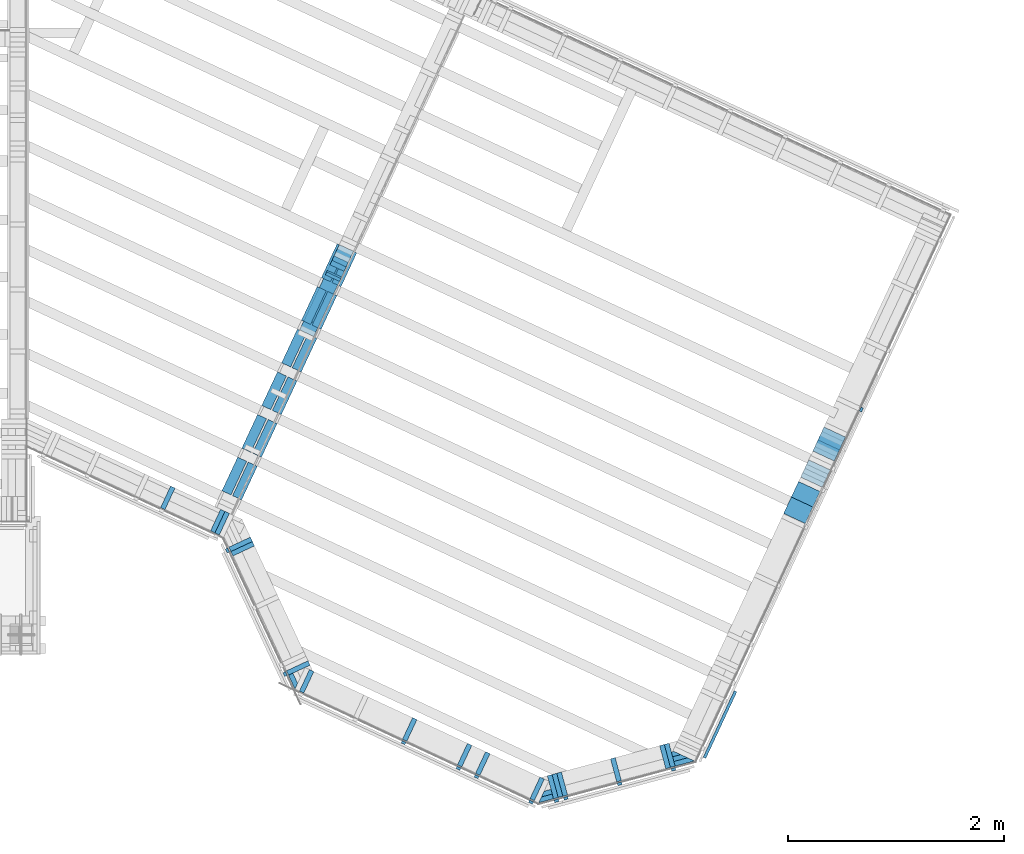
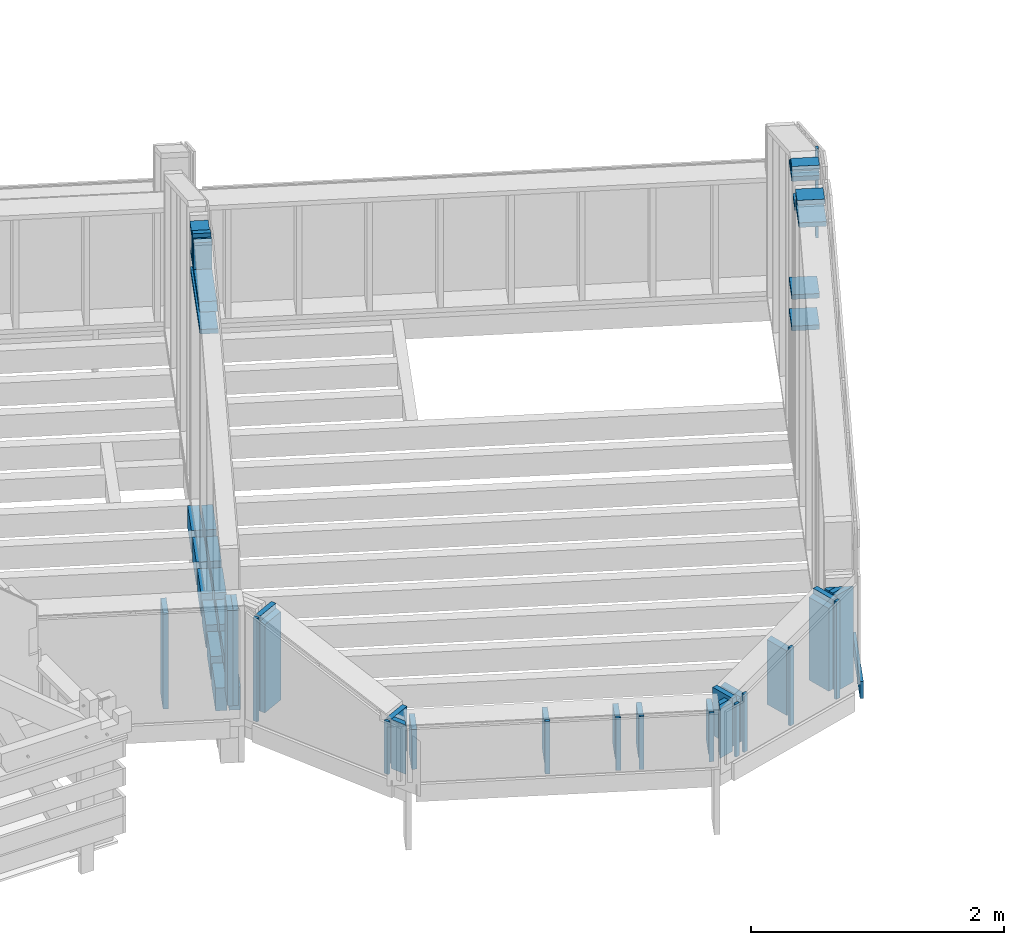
# One storey, part 17 of 24: 60 members.
"""IFC2X3 building model written with IfcOpenShell, lengths in metres."""

from ifc_helpers import new_model, si_unit, direction, frame, origin_with_axes, place, context, subcontext, project, spatial, faceted_brep, material, element, save


model = new_model("IFC2X3")

# Units and contexts
model_context = context("Model", 3, precision=1e-06, world=origin_with_axes(), true_north=direction((0.0, 1.0, 0.0)))
body_context = subcontext(model_context, "Body", "Model", "MODEL_VIEW")
ifc_project = project(units=[si_unit("LENGTHUNIT", "METRE"), si_unit("AREAUNIT", "SQUARE_METRE"), si_unit("VOLUMEUNIT", "CUBIC_METRE"), si_unit("PLANEANGLEUNIT", "RADIAN")], contexts=[model_context])

# Site, building, storey
site_placement = place(None, origin_with_axes())
site = spatial("IfcSite", under=ifc_project, at=site_placement, CompositionType="ELEMENT")
building_placement = place(site_placement, origin_with_axes())
building = spatial("IfcBuilding", under=site, at=building_placement, Name="Building 1", CompositionType="ELEMENT")
storey_placement = place(building_placement, origin_with_axes())
storey = spatial("IfcBuildingStorey", under=building, at=storey_placement, Name="Premier Etage", CompositionType="ELEMENT", Elevation=0.0)

# Members
ifc_material_1 = material(Name="Epicéa C24")
member_1_placement = place(storey_placement, frame((9.6650712, 3.6329024, 5.0835), z_axis=(0.9063078, -0.4226183, 0.0), x_axis=(-0.4226183, -0.9063078, 0.0)))
element("IfcMember", 1, at=member_1_placement, inside=storey, material=ifc_material_1, Name="Montant", context=body_context, shape_type="Brep", body=[
    faceted_brep([(0.0, 0.0225, -0.0725), (0.0, -0.0225, -0.0725), (0.0, -0.0225, 0.0725), (0.0, 0.0225, 0.0725), (0.87, 0.0225, -0.0725), (0.87, -0.0225, -0.0725), (0.87, 0.0225, 0.0725), (0.87, -0.0225, 0.0725)], [[[0, 1, 2, 3]], [[1, 0, 4, 5]], [[0, 3, 6, 4]], [[5, 4, 6, 7]], [[2, 1, 5, 7]], [[3, 2, 7, 6]]]),
])
member_2_placement = place(storey_placement, frame((9.6069612, 3.5082851, 5.4693053), z_axis=(0.9063078, -0.4226183, 0.0), x_axis=(0.0, 0.0, -1.0)))
element("IfcMember", 2, at=member_2_placement, inside=storey, material=ifc_material_1, Name="Montant", context=body_context, shape_type="Brep", body=[
    faceted_brep([(0.0, -0.0225, -0.0725), (0.0, -0.0225, 0.0725), (0.0, 0.0225, 0.0725), (0.0, 0.0225, -0.0725), (0.1783053, -0.0225, 0.0725), (0.1783053, 0.0225, 0.0725), (0.1783053, -0.0225, -0.0725), (0.1783053, 0.0225, -0.0725)], [[[0, 1, 2, 3]], [[2, 1, 4, 5]], [[1, 0, 6, 4]], [[6, 7, 5, 4]], [[0, 3, 7, 6]], [[3, 2, 5, 7]]]),
])
member_3_placement = place(storey_placement, frame((11.5062944, -1.4585268, 3.3236496), z_axis=(-0.9659258, -0.258819, 0.0), x_axis=(0.0, 0.0, -1.0)))
element("IfcMember", 3, at=member_3_placement, inside=storey, material=ifc_material_1, Name="Montant", context=body_context, shape_type="Brep", body=[
    faceted_brep([(0.0, -0.0225, 0.0329472), (0.0, 0.0225, 0.0707066), (0.0, 0.0225, -0.0707066), (0.0, -0.0225, -0.0707066), (0.4736496, 0.0225, 0.0707066), (0.4736496, 0.0225, -0.0707066), (0.4736496, -0.0225, 0.0329472), (0.4736496, -0.0225, -0.0707066)], [[[0, 1, 2, 3]], [[2, 1, 4, 5]], [[1, 0, 6, 4]], [[0, 3, 7, 6]], [[4, 6, 7, 5]], [[3, 2, 5, 7]]]),
])
ifc_material_2 = material(Name="NH II")
member_4_placement = place(storey_placement, frame((9.6204409, 3.6507703, 2.695), z_axis=(0.0, 0.0, -1.0), x_axis=(-0.4226183, -0.9063078, 0.0)))
element("IfcMember", 4, at=member_4_placement, inside=storey, material=ifc_material_2, Name="Solive", context=body_context, shape_type="Brep", body=[
    faceted_brep([(0.0, -0.046, -0.11), (0.0, 0.046, -0.11), (0.3432285, 0.046, -0.11), (0.3432285, -0.046, -0.11), (0.0, 0.046, 0.11), (0.3432285, 0.046, 0.11), (0.0, -0.046, 0.11), (0.3432285, -0.046, 0.11)], [[[0, 1, 2, 3]], [[1, 4, 5, 2]], [[4, 6, 7, 5]], [[6, 0, 3, 7]], [[0, 6, 4, 1]], [[7, 3, 2, 5]]]),
])
member_5_placement = place(storey_placement, frame((14.0783333, 1.7079215, 4.1328223), z_axis=(-0.9063078, 0.4226183, 0.0), x_axis=(0.4226183, 0.9063078, 0.0)))
element("IfcMember", 5, at=member_5_placement, inside=storey, material=ifc_material_1, Name="Montant", context=body_context, shape_type="Brep", body=[
    faceted_brep([(0.0, 0.0225, -0.11), (0.0, -0.0225, -0.11), (0.0, -0.0225, 0.11), (0.0, 0.0225, 0.11), (0.2448861, -0.0225, -0.11), (0.2448861, -0.0225, 0.11), (0.2448861, 0.0225, -0.11), (0.2448861, 0.0225, 0.11)], [[[0, 1, 2, 3]], [[2, 1, 4, 5]], [[1, 0, 6, 4]], [[5, 4, 6, 7]], [[0, 3, 7, 6]], [[3, 2, 5, 7]]]),
])
member_6_placement = place(storey_placement, frame((14.0783333, 1.7079215, 5.6718053), z_axis=(-0.9063078, 0.4226183, 0.0), x_axis=(0.4226183, 0.9063078, 0.0)))
element("IfcMember", 6, at=member_6_placement, inside=storey, material=ifc_material_1, Name="Montant", context=body_context, shape_type="Brep", body=[
    faceted_brep([(0.0, 0.0225, -0.11), (0.0, -0.0225, -0.11), (0.0, -0.0225, 0.11), (0.0, 0.0225, 0.11), (0.1133205, -0.0225, -0.11), (0.1133205, -0.0225, 0.11), (0.1133205, 0.0225, -0.11), (0.1133205, 0.0225, 0.11)], [[[0, 1, 2, 3]], [[2, 1, 4, 5]], [[1, 0, 6, 4]], [[5, 4, 6, 7]], [[0, 3, 7, 6]], [[3, 2, 5, 7]]]),
])
member_7_placement = place(storey_placement, frame((9.684089, 3.6736863, 5.4918053), z_axis=(0.9063078, -0.4226183, 0.0), x_axis=(-0.4226183, -0.9063078, 0.0)))
element("IfcMember", 7, at=member_7_placement, inside=storey, material=ifc_material_1, Name="Montant", context=body_context, shape_type="Brep", body=[
    faceted_brep([(0.205, -0.0225, -0.0725), (0.205, 0.0225, -0.0725), (0.205, 0.0225, 0.0725), (0.205, -0.0225, 0.0725), (0.0, 0.0225, -0.0725), (0.0, 0.0225, 0.0725), (0.0, -0.0225, -0.0725), (0.0, -0.0225, 0.0725)], [[[0, 1, 2, 3]], [[2, 1, 4, 5]], [[1, 0, 6, 4]], [[4, 6, 7, 5]], [[0, 3, 7, 6]], [[3, 2, 5, 7]]]),
])
for number, where, z_axis, x_axis in (
    (8, (9.0686344, 2.4674174, 2.695), (0.0, 0.0, -1.0), (-0.4226183, -0.9063078, 0.0)),
    (9, (8.7986446, 1.6328727, 2.695), (0.0, 0.0, -1.0), (-0.4226183, -0.9063078, 0.0)),
):
    element("IfcMember", number, at=place(storey_placement, frame(where, z_axis=z_axis, x_axis=x_axis)), inside=storey, material=ifc_material_2, Name="Solive", context=body_context, shape_type="Brep", body=[
        faceted_brep([(0.0, -0.046, -0.11), (0.0, 0.046, -0.11), (0.3432285, 0.046, -0.11), (0.3432285, -0.046, -0.11), (0.0, 0.046, 0.11), (0.3432285, 0.046, 0.11), (0.0, -0.046, 0.11), (0.3432285, -0.046, 0.11)], [[[0, 1, 2, 3]], [[1, 4, 5, 2]], [[4, 6, 7, 5]], [[6, 0, 3, 7]], [[0, 6, 4, 1]], [[7, 3, 2, 5]]]),
    ])
member_8_placement = place(storey_placement, frame((8.7053775, 0.8507214, 3.7624104), z_axis=(-0.9063078, -0.4226183, 0.0), x_axis=(0.0, 0.0, -1.0)))
element("IfcMember", 10, at=member_8_placement, inside=storey, material=ifc_material_1, Name="Montant", context=body_context, shape_type="Brep", body=[
    faceted_brep([(0.0167001, 0.0225, -0.11), (0.0, -0.0225, -0.11), (0.0, -0.0225, 0.11), (0.0167001, 0.0225, 0.11), (0.8674104, -0.0225, -0.11), (0.8674104, -0.0225, 0.11), (0.8674104, 0.0225, -0.11), (0.8674104, 0.0225, 0.11)], [[[0, 1, 2, 3]], [[2, 1, 4, 5]], [[1, 0, 6, 4]], [[0, 3, 7, 6]], [[3, 2, 5, 7]], [[4, 6, 7, 5]]]),
])
member_9_placement = place(storey_placement, frame((8.7007634, 1.6785154, 2.695), z_axis=(0.0, 0.0, -1.0), x_axis=(-0.4226183, -0.9063078, 0.0)))
element("IfcMember", 11, at=member_9_placement, inside=storey, material=ifc_material_2, Name="Solive", context=body_context, shape_type="Brep", body=[
    faceted_brep([(0.0, -0.046, -0.11), (0.0, 0.046, -0.11), (0.3432285, 0.046, -0.11), (0.3432285, -0.046, -0.11), (0.0, 0.046, 0.11), (0.3432285, 0.046, 0.11), (0.0, -0.046, 0.11), (0.3432285, -0.046, 0.11)], [[[0, 1, 2, 3]], [[1, 4, 5, 2]], [[4, 6, 7, 5]], [[6, 0, 3, 7]], [[0, 6, 4, 1]], [[7, 3, 2, 5]]]),
])
member_10_placement = place(storey_placement, frame((9.5879433, 3.4675013, 5.565), z_axis=(0.9063078, -0.4226183, 0.0), x_axis=(0.0, 0.0, -1.0)))
element("IfcMember", 12, at=member_10_placement, inside=storey, material=ifc_material_1, Name="Montant", context=body_context, shape_type="Brep", body=[
    faceted_brep([(0.274, -0.0225, 0.0725), (0.274, -0.0225, -0.0725), (0.274, 0.0225, -0.0725), (0.274, 0.0225, 0.0725), (0.0, -0.0225, -0.0725), (0.0, 0.0225, -0.0725), (0.0, -0.0225, 0.0725), (0.0, 0.0225, 0.0725)], [[[0, 1, 2, 3]], [[2, 1, 4, 5]], [[1, 0, 6, 4]], [[3, 2, 5, 7]], [[0, 3, 7, 6]], [[6, 7, 5, 4]]]),
])
member_11_placement = place(storey_placement, frame((14.0783333, 1.7079215, 5.5730704), z_axis=(-0.9063078, 0.4226183, 0.0), x_axis=(0.4226183, 0.9063078, 0.0)))
element("IfcMember", 13, at=member_11_placement, inside=storey, material=ifc_material_1, Name="Montant", context=body_context, shape_type="Brep", body=[
    faceted_brep([(0.2418861, -0.0225, 0.11), (0.2418861, -0.0225, -0.11), (0.2418861, 0.0225, -0.11), (0.2418861, 0.0225, 0.11), (0.0, -0.0225, -0.11), (0.0, 0.0225, -0.11), (0.0, -0.0225, 0.11), (0.0, 0.0225, 0.11)], [[[0, 1, 2, 3]], [[2, 1, 4, 5]], [[1, 0, 6, 4]], [[5, 4, 6, 7]], [[3, 2, 5, 7]], [[0, 3, 7, 6]]]),
])
member_12_placement = place(storey_placement, frame((9.6650712, 3.6329024, 5.2685), z_axis=(0.9063078, -0.4226183, 0.0), x_axis=(-0.4226183, -0.9063078, 0.0)))
element("IfcMember", 14, at=member_12_placement, inside=storey, material=ifc_material_1, Name="Montant", context=body_context, shape_type="Brep", body=[
    faceted_brep([(0.7532609, -0.0225, -0.0725), (0.8312032, 0.0225, -0.0725), (0.8312032, 0.0225, 0.0725), (0.7532609, -0.0225, 0.0725), (0.0, 0.0225, -0.0725), (0.0, 0.0225, 0.0725), (0.0, -0.0225, -0.0725), (0.0, -0.0225, 0.0725)], [[[0, 1, 2, 3]], [[2, 1, 4, 5]], [[1, 0, 6, 4]], [[4, 6, 7, 5]], [[0, 3, 7, 6]], [[3, 2, 5, 7]]]),
])
member_13_placement = place(storey_placement, frame((13.8090285, 1.1303954, 5.5730704), z_axis=(-0.9063078, 0.4226183, 0.0), x_axis=(0.4226183, 0.9063078, 0.0)))
element("IfcMember", 15, at=member_13_placement, inside=storey, material=ifc_material_1, Name="Montant", context=body_context, shape_type="Brep", body=[
    faceted_brep([(0.0, 0.0225, -0.11), (0.0, -0.0225, -0.11), (0.0, -0.0225, 0.11), (0.0, 0.0225, 0.11), (0.3262296, -0.0225, -0.11), (0.3262296, -0.0225, 0.11), (0.3262296, 0.0225, -0.11), (0.3262296, 0.0225, 0.11)], [[[0, 1, 2, 3]], [[2, 1, 4, 5]], [[1, 0, 6, 4]], [[5, 4, 6, 7]], [[0, 3, 7, 6]], [[3, 2, 5, 7]]]),
])
member_14_placement = place(storey_placement, frame((9.3504512, 2.8162256, 2.695), z_axis=(0.0, 0.0, -1.0), x_axis=(-0.4226183, -0.9063078, 0.0)))
element("IfcMember", 16, at=member_14_placement, inside=storey, material=ifc_material_2, Name="Solive", context=body_context, shape_type="Brep", body=[
    faceted_brep([(0.0, -0.046, -0.11), (0.0, 0.046, -0.11), (0.3432285, 0.046, -0.11), (0.3432285, -0.046, -0.11), (0.0, 0.046, 0.11), (0.3432285, 0.046, 0.11), (0.0, -0.046, 0.11), (0.3432285, -0.046, 0.11)], [[[0, 1, 2, 3]], [[1, 4, 5, 2]], [[4, 6, 7, 5]], [[6, 0, 3, 7]], [[0, 6, 4, 1]], [[7, 3, 2, 5]]]),
])
member_15_placement = place(storey_placement, frame((8.475034, 1.1060486, 3.8136408), z_axis=(-0.4226183, -0.9063078, 0.0), x_axis=(0.0, 0.0, -1.0)))
element("IfcMember", 17, at=member_15_placement, inside=storey, material=ifc_material_1, Name="Montant", context=body_context, shape_type="Brep", body=[
    faceted_brep([(0.9186408, -0.0225, -0.11), (0.9186408, 0.0225, -0.11), (0.9186408, 0.0225, 0.11), (0.9186408, -0.0225, 0.11), (0.0, 0.0225, -0.11), (0.0, 0.0225, 0.11), (0.0, -0.0225, -0.11), (0.0, -0.0225, 0.11)], [[[0, 1, 2, 3]], [[2, 1, 4, 5]], [[1, 0, 6, 4]], [[0, 3, 7, 6]], [[3, 2, 5, 7]], [[7, 5, 4, 6]]]),
])
member_16_placement = place(storey_placement, frame((11.4291327, -1.3703397, 3.2786496), z_axis=(-0.4226183, -0.9063078, 0.0), x_axis=(0.0, 0.0, -1.0)))
element("IfcMember", 18, at=member_16_placement, inside=storey, material=ifc_material_1, Name="Montant", context=body_context, shape_type="Brep", body=[
    faceted_brep([(0.3836496, -0.0225, -0.11), (0.3836496, 0.0225, -0.11), (0.3836496, 0.0225, 0.11), (0.3836496, -0.0225, 0.11), (0.0, 0.0225, -0.11), (0.0, 0.0225, 0.11), (0.0, -0.0225, -0.11), (0.0, -0.0225, 0.11)], [[[0, 1, 2, 3]], [[2, 1, 4, 5]], [[1, 0, 6, 4]], [[0, 3, 7, 6]], [[3, 2, 5, 7]], [[7, 5, 4, 6]]]),
])
member_17_placement = place(storey_placement, frame((11.5128839, -1.4101737, 3.3236496), z_axis=(-0.9659258, -0.258819, 0.0), x_axis=(0.0, 0.0, -1.0)))
element("IfcMember", 19, at=member_17_placement, inside=storey, material=ifc_material_1, Name="Montant", context=body_context, shape_type="Brep", body=[
    faceted_brep([(0.0, -0.0225, 0.0140674), (0.0, 0.0225, 0.0518269), (0.0, 0.0225, -0.0518269), (0.0, -0.0225, -0.0518269), (0.4736496, 0.0225, 0.0518269), (0.4736496, 0.0225, -0.0518269), (0.4736496, -0.0225, 0.0140674), (0.4736496, -0.0225, -0.0518269)], [[[0, 1, 2, 3]], [[2, 1, 4, 5]], [[1, 0, 6, 4]], [[0, 3, 7, 6]], [[4, 6, 7, 5]], [[3, 2, 5, 7]]]),
])
member_18_placement = place(storey_placement, frame((13.9659169, 1.4668437, 5.4768053), z_axis=(-0.9063078, 0.4226183, 0.0), x_axis=(0.4226183, 0.9063078, 0.0)))
element("IfcMember", 20, at=member_18_placement, inside=storey, material=ifc_material_1, Name="Montant", context=body_context, shape_type="Brep", body=[
    faceted_brep([(0.0, 0.0225, -0.11), (0.0, -0.0225, -0.11), (0.0, -0.0225, 0.11), (0.0, 0.0225, 0.11), (0.176, -0.0225, -0.11), (0.176, -0.0225, 0.11), (0.176, 0.0225, -0.11), (0.176, 0.0225, 0.11)], [[[0, 1, 2, 3]], [[2, 1, 4, 5]], [[1, 0, 6, 4]], [[5, 4, 6, 7]], [[0, 3, 7, 6]], [[3, 2, 5, 7]]]),
])
member_19_placement = place(storey_placement, frame((14.0783333, 1.7079215, 4.4355771), z_axis=(-0.9063078, 0.4226183, 0.0), x_axis=(0.4226183, 0.9063078, 0.0)))
element("IfcMember", 21, at=member_19_placement, inside=storey, material=ifc_material_1, Name="Montant", context=body_context, shape_type="Brep", body=[
    faceted_brep([(0.0, 0.0225, -0.11), (0.0, -0.0225, -0.11), (0.0, -0.0225, 0.11), (0.0, 0.0225, 0.11), (0.2448861, -0.0225, -0.11), (0.2448861, -0.0225, 0.11), (0.2448861, 0.0225, -0.11), (0.2448861, 0.0225, 0.11)], [[[0, 1, 2, 3]], [[2, 1, 4, 5]], [[1, 0, 6, 4]], [[5, 4, 6, 7]], [[0, 3, 7, 6]], [[3, 2, 5, 7]]]),
])
member_20_placement = place(storey_placement, frame((8.5158178, 1.0870308, 3.8136408), z_axis=(-0.4226183, -0.9063078, 0.0), x_axis=(0.0, 0.0, -1.0)))
element("IfcMember", 22, at=member_20_placement, inside=storey, material=ifc_material_1, Name="Montant", context=body_context, shape_type="Brep", body=[
    faceted_brep([(0.9186408, -0.0225, -0.11), (0.9186408, 0.0225, -0.11), (0.9186408, 0.0225, 0.11), (0.9186408, -0.0225, 0.11), (0.0, 0.0225, -0.11), (0.0, 0.0225, 0.11), (0.0, -0.0225, -0.11), (0.0, -0.0225, 0.11)], [[[0, 1, 2, 3]], [[2, 1, 4, 5]], [[1, 0, 6, 4]], [[0, 3, 7, 6]], [[3, 2, 5, 7]], [[7, 5, 4, 6]]]),
])
for number, where, z_axis, x_axis in (
    (23, (9.2525699, 2.8618684, 2.695), (0.0, 0.0, -1.0), (-0.4226183, -0.9063078, 0.0)),
    (24, (8.9825801, 2.0273236, 2.695), (0.0, 0.0, -1.0), (-0.4226183, -0.9063078, 0.0)),
):
    element("IfcMember", number, at=place(storey_placement, frame(where, z_axis=z_axis, x_axis=x_axis)), inside=storey, material=ifc_material_2, Name="Solive", context=body_context, shape_type="Brep", body=[
        faceted_brep([(0.0, -0.046, -0.11), (0.0, 0.046, -0.11), (0.3432285, 0.046, -0.11), (0.3432285, -0.046, -0.11), (0.0, 0.046, 0.11), (0.3432285, 0.046, 0.11), (0.0, -0.046, 0.11), (0.3432285, -0.046, 0.11)], [[[0, 1, 2, 3]], [[1, 4, 5, 2]], [[4, 6, 7, 5]], [[6, 0, 3, 7]], [[0, 6, 4, 1]], [[7, 3, 2, 5]]]),
    ])
member_21_placement = place(storey_placement, frame((9.5446086, 3.3745696, 5.291), z_axis=(0.9063078, -0.4226183, 0.0), x_axis=(0.0, 0.0, 1.0)))
element("IfcMember", 25, at=member_21_placement, inside=storey, material=ifc_material_1, Name="Montant", context=body_context, shape_type="Brep", body=[
    faceted_brep([(0.0, -0.0225, 0.0725), (0.0, 0.0225, 0.0725), (0.0, 0.0225, -0.0725), (0.0, -0.0225, -0.0725), (0.2573378, 0.0225, 0.0725), (0.2573378, 0.0225, -0.0725), (0.274, -0.0225, 0.0725), (0.274, -0.0063597, 0.0725), (0.274, -0.0063597, -0.0725), (0.274, -0.0225, -0.0725)], [[[0, 1, 2, 3]], [[2, 1, 4, 5]], [[1, 0, 6, 7, 4]], [[8, 7, 6, 9]], [[4, 7, 8, 5]], [[0, 3, 9, 6]], [[3, 2, 5, 8, 9]]]),
])
member_22_placement = place(storey_placement, frame((11.6955523, -1.4569909, 3.3710833), z_axis=(0.258819, -0.9659258, 0.0), x_axis=(0.0, 0.0, -1.0)))
element("IfcMember", 26, at=member_22_placement, inside=storey, material=ifc_material_1, Name="latte 27/40", context=body_context, shape_type="Brep", body=[
    faceted_brep([(0.5610833, 0.02, 0.012), (0.0, 0.02, 0.012), (0.0, -0.02, 0.012), (0.5610833, -0.02, 0.012), (0.0, -0.02, -0.012), (0.5610833, -0.02, -0.012), (0.0, 0.02, -0.012), (0.5610833, 0.02, -0.012)], [[[0, 1, 2, 3]], [[3, 2, 4, 5]], [[5, 4, 6, 7]], [[7, 6, 1, 0]], [[7, 0, 3, 5]], [[1, 6, 4, 2]]]),
])
member_23_placement = place(storey_placement, frame((9.1797649, -0.3736483, 2.85), z_axis=(0.4226183, -0.9063078, 0.0), x_axis=(0.0, 0.0, 1.0)))
element("IfcMember", 27, at=member_23_placement, inside=storey, material=ifc_material_1, Name="Montant", context=body_context, shape_type="Brep", body=[
    faceted_brep([(0.4736496, -0.0225, -0.0707066), (0.4736496, -0.0225, 0.0329472), (0.0, -0.0225, 0.0329472), (0.0, -0.0225, -0.0707066), (0.4736496, 0.0225, -0.0707066), (0.0, 0.0225, -0.0707066), (0.4736496, 0.0225, 0.0707066), (0.0, 0.0225, 0.0707066)], [[[0, 1, 2, 3]], [[4, 0, 3, 5]], [[6, 4, 5, 7]], [[2, 7, 5, 3]], [[1, 6, 7, 2]], [[6, 1, 0, 4]]]),
])
member_24_placement = place(storey_placement, frame((11.6171451, -1.3382378, 3.3274898), z_axis=(0.258819, -0.9659258, 0.0), x_axis=(0.0, 0.0, -1.0)))
element("IfcMember", 28, at=member_24_placement, inside=storey, material=ifc_material_1, Name="Montant", context=body_context, shape_type="Brep", body=[
    faceted_brep([(0.0167001, -0.0225, 0.11), (0.0, 0.0225, 0.11), (0.0, 0.0225, -0.11), (0.0167001, -0.0225, -0.11), (0.4324898, 0.0225, 0.11), (0.4324898, 0.0225, -0.11), (0.4324898, -0.0225, 0.11), (0.4324898, -0.0225, -0.11)], [[[0, 1, 2, 3]], [[2, 1, 4, 5]], [[1, 0, 6, 4]], [[0, 3, 7, 6]], [[7, 5, 4, 6]], [[3, 2, 5, 7]]]),
])
member_25_placement = place(storey_placement, frame((12.1930041, -1.3236991, 3.5622068), z_axis=(0.258819, -0.9659258, 0.0), x_axis=(0.0, 0.0, -1.0)))
element("IfcMember", 29, at=member_25_placement, inside=storey, material=ifc_material_1, Name="latte 27/40", context=body_context, shape_type="Brep", body=[
    faceted_brep([(0.7522068, 0.02, 0.012), (0.0, 0.02, 0.012), (0.0, -0.02, 0.012), (0.7522068, -0.02, 0.012), (0.0, -0.02, -0.012), (0.7522068, -0.02, -0.012), (0.0, 0.02, -0.012), (0.7522068, 0.02, -0.012)], [[[0, 1, 2, 3]], [[3, 2, 4, 5]], [[5, 4, 6, 7]], [[7, 6, 1, 0]], [[7, 0, 3, 5]], [[1, 6, 4, 2]]]),
])
member_26_placement = place(storey_placement, frame((10.7587025, -1.057713, 3.2786496), z_axis=(-0.4226183, -0.9063078, 0.0), x_axis=(0.0, 0.0, -1.0)))
element("IfcMember", 30, at=member_26_placement, inside=storey, material=ifc_material_1, Name="Montant", context=body_context, shape_type="Brep", body=[
    faceted_brep([(0.3836496, -0.0225, -0.11), (0.3836496, 0.0225, -0.11), (0.3836496, 0.0225, 0.11), (0.3836496, -0.0225, 0.11), (0.0, 0.0225, -0.11), (0.0, 0.0225, 0.11), (0.0, -0.0225, -0.11), (0.0, -0.0225, 0.11)], [[[0, 1, 2, 3]], [[2, 1, 4, 5]], [[1, 0, 6, 4]], [[0, 3, 7, 6]], [[3, 2, 5, 7]], [[7, 5, 4, 6]]]),
])
member_27_placement = place(storey_placement, frame((11.608619, -1.4802846, 3.3186496), z_axis=(0.258819, -0.9659258, 0.0), x_axis=(0.0, 0.0, -1.0)))
element("IfcMember", 31, at=member_27_placement, inside=storey, material=ifc_material_1, Name="latte 27/40", context=body_context, shape_type="Brep", body=[
    faceted_brep([(0.5086496, 0.02, -0.012), (0.5086496, 0.02, 0.012), (0.5086496, -0.02, 0.012), (0.5086496, -0.02, -0.012), (0.0, 0.02, 0.012), (0.0, 0.02, -0.012), (0.0, -0.02, -0.012), (0.0, -0.02, 0.012)], [[[0, 1, 2, 3]], [[4, 5, 6, 7]], [[3, 6, 5, 0]], [[2, 7, 6, 3]], [[1, 4, 7, 2]], [[0, 5, 4, 1]]]),
])
member_28_placement = place(storey_placement, frame((12.7141942, -1.0416961, 2.85), z_axis=(0.9659258, 0.258819, 0.0), x_axis=(0.0, 0.0, 1.0)))
element("IfcMember", 32, at=member_28_placement, inside=storey, material=ifc_material_1, Name="Montant", context=body_context, shape_type="Brep", body=[
    faceted_brep([(0.9244358, -0.0225, -0.0389187), (0.9244358, 0.0225, -0.0389187), (0.9244358, 0.0225, 0.0389187), (0.9244358, -0.0225, -0.0147102), (0.0, 0.0225, 0.0389187), (0.0, -0.0225, -0.0147102), (0.0, 0.0225, -0.0389187), (0.0, -0.0225, -0.0389187)], [[[0, 1, 2, 3]], [[3, 2, 4, 5]], [[2, 1, 6, 4]], [[1, 0, 7, 6]], [[0, 3, 5, 7]], [[5, 4, 6, 7]]]),
])
member_29_placement = place(storey_placement, frame((11.5736784, -1.3498846, 3.3587886), z_axis=(0.258819, -0.9659258, 0.0), x_axis=(0.0, 0.0, -1.0)))
element("IfcMember", 33, at=member_29_placement, inside=storey, material=ifc_material_1, Name="Montant", context=body_context, shape_type="Brep", body=[
    faceted_brep([(0.0, 0.0225, -0.11), (0.0, -0.0225, -0.11), (0.0, -0.0225, 0.11), (0.0, 0.0225, 0.11), (0.4637886, -0.0225, -0.11), (0.4637886, -0.0225, 0.11), (0.4637886, 0.0225, -0.11), (0.4637886, 0.0225, 0.11)], [[[0, 1, 2, 3]], [[2, 1, 4, 5]], [[1, 0, 6, 4]], [[0, 3, 7, 6]], [[3, 2, 5, 7]], [[4, 6, 7, 5]]]),
])
member_30_placement = place(storey_placement, frame((11.3720792, -1.4926913, 3.3186496), z_axis=(-0.4226183, -0.9063078, 0.0), x_axis=(0.0, 0.0, -1.0)))
element("IfcMember", 34, at=member_30_placement, inside=storey, material=ifc_material_1, Name="latte 27/40", context=body_context, shape_type="Brep", body=[
    faceted_brep([(0.4686496, 0.02, 0.012), (0.0, 0.02, 0.012), (0.0, -0.02, 0.012), (0.4686496, -0.02, 0.012), (0.0, -0.02, -0.012), (0.4686496, -0.02, -0.012), (0.0, 0.02, -0.012), (0.4686496, 0.02, -0.012)], [[[0, 1, 2, 3]], [[3, 2, 4, 5]], [[5, 4, 6, 7]], [[7, 6, 1, 0]], [[7, 0, 3, 5]], [[1, 6, 4, 2]]]),
])
member_31_placement = place(storey_placement, frame((12.6904559, -1.1904073, 3.7533303), z_axis=(0.258819, -0.9659258, 0.0), x_axis=(0.0, 0.0, -1.0)))
element("IfcMember", 35, at=member_31_placement, inside=storey, material=ifc_material_1, Name="latte 27/40", context=body_context, shape_type="Brep", body=[
    faceted_brep([(0.9433303, 0.02, -0.012), (0.9433303, 0.02, 0.012), (0.9433303, -0.02, 0.012), (0.9433303, -0.02, -0.012), (0.0, 0.02, 0.012), (0.0, 0.02, -0.012), (0.0, -0.02, -0.012), (0.0, -0.02, 0.012)], [[[0, 1, 2, 3]], [[4, 5, 6, 7]], [[3, 6, 5, 0]], [[2, 7, 6, 3]], [[1, 4, 7, 2]], [[0, 5, 4, 1]]]),
])
member_32_placement = place(storey_placement, frame((9.2969187, -0.376072, 3.2786496), z_axis=(-0.4226183, -0.9063078, 0.0), x_axis=(0.0, 0.0, -1.0)))
element("IfcMember", 36, at=member_32_placement, inside=storey, material=ifc_material_1, Name="Montant", context=body_context, shape_type="Brep", body=[
    faceted_brep([(0.3836496, -0.0225, -0.11), (0.3836496, 0.0225, -0.11), (0.3836496, 0.0225, 0.11), (0.3836496, -0.0225, 0.11), (0.0, 0.0225, -0.11), (0.0, 0.0225, 0.11), (0.0, -0.0225, -0.11), (0.0, -0.0225, 0.11)], [[[0, 1, 2, 3]], [[2, 1, 4, 5]], [[1, 0, 6, 4]], [[0, 3, 7, 6]], [[3, 2, 5, 7]], [[7, 5, 4, 6]]]),
])
for number, where, z_axis, x_axis in (
    (37, (9.4365054, 3.2563193, 2.695), (0.0, 0.0, -1.0), (-0.4226183, -0.9063078, 0.0)),
    (38, (8.8846989, 2.0729664, 2.695), (0.0, 0.0, -1.0), (-0.4226183, -0.9063078, 0.0)),
):
    element("IfcMember", number, at=place(storey_placement, frame(where, z_axis=z_axis, x_axis=x_axis)), inside=storey, material=ifc_material_2, Name="Solive", context=body_context, shape_type="Brep", body=[
        faceted_brep([(0.0, -0.046, -0.11), (0.0, 0.046, -0.11), (0.3432285, 0.046, -0.11), (0.3432285, -0.046, -0.11), (0.0, 0.046, 0.11), (0.3432285, 0.046, 0.11), (0.0, -0.046, 0.11), (0.3432285, -0.046, 0.11)], [[[0, 1, 2, 3]], [[1, 4, 5, 2]], [[4, 6, 7, 5]], [[6, 0, 3, 7]], [[0, 6, 4, 1]], [[7, 3, 2, 5]]]),
    ])
member_33_placement = place(storey_placement, frame((8.6863597, 0.8915052, 3.8104093), z_axis=(-0.9063078, -0.4226183, 0.0), x_axis=(0.0, 0.0, -1.0)))
element("IfcMember", 39, at=member_33_placement, inside=storey, material=ifc_material_1, Name="Montant", context=body_context, shape_type="Brep", body=[
    faceted_brep([(0.0, 0.0225, -0.11), (0.0, -0.0225, -0.11), (0.0, -0.0225, 0.11), (0.0, 0.0225, 0.11), (0.9154093, -0.0225, -0.11), (0.9154093, -0.0225, 0.11), (0.9154093, 0.0225, -0.11), (0.9154093, 0.0225, 0.11)], [[[0, 1, 2, 3]], [[2, 1, 4, 5]], [[1, 0, 6, 4]], [[0, 3, 7, 6]], [[3, 2, 5, 7]], [[4, 6, 7, 5]]]),
])
member_34_placement = place(storey_placement, frame((8.5640081, 0.8344518, 3.8060039), z_axis=(-0.9063078, -0.4226183, 0.0), x_axis=(0.0, 0.0, -1.0)))
element("IfcMember", 40, at=member_34_placement, inside=storey, material=ifc_material_1, Name="latte 27/40", context=body_context, shape_type="Brep", body=[
    faceted_brep([(0.9960039, 0.02, -0.012), (0.9960039, 0.02, 0.012), (0.9960039, -0.02, 0.012), (0.9960039, -0.02, -0.012), (0.0, 0.02, 0.012), (0.0, 0.02, -0.012), (0.0, -0.02, -0.012), (0.0, -0.02, 0.012)], [[[0, 1, 2, 3]], [[4, 5, 6, 7]], [[3, 6, 5, 0]], [[2, 7, 6, 3]], [[1, 4, 7, 2]], [[0, 5, 4, 1]]]),
])
member_35_placement = place(storey_placement, frame((9.219676, -0.2521953, 3.3236496), z_axis=(-0.9063078, -0.4226183, 0.0), x_axis=(0.0, 0.0, -1.0)))
element("IfcMember", 41, at=member_35_placement, inside=storey, material=ifc_material_1, Name="Montant", context=body_context, shape_type="Brep", body=[
    faceted_brep([(0.0, -0.0225, 0.11), (0.0, 0.0225, 0.11), (0.0, 0.0225, -0.11), (0.0, -0.0225, -0.11), (0.4286496, 0.0225, 0.11), (0.4286496, 0.0225, -0.11), (0.4286496, -0.0225, 0.11), (0.4286496, -0.0225, -0.11)], [[[0, 1, 2, 3]], [[2, 1, 4, 5]], [[1, 0, 6, 4]], [[0, 3, 7, 6]], [[3, 2, 5, 7]], [[7, 5, 4, 6]]]),
])
member_36_placement = place(storey_placement, frame((9.0973244, -0.3092487, 3.3186496), z_axis=(-0.9063078, -0.4226183, 0.0), x_axis=(0.0, 0.0, -1.0)))
element("IfcMember", 42, at=member_36_placement, inside=storey, material=ifc_material_1, Name="latte 27/40", context=body_context, shape_type="Brep", body=[
    faceted_brep([(0.5086496, 0.02, -0.012), (0.5086496, 0.02, 0.012), (0.5086496, -0.02, 0.012), (0.5086496, -0.02, -0.012), (0.0, 0.02, 0.012), (0.0, 0.02, -0.012), (0.0, -0.02, -0.012), (0.0, -0.02, 0.012)], [[[0, 1, 2, 3]], [[4, 5, 6, 7]], [[3, 6, 5, 0]], [[2, 7, 6, 3]], [[1, 4, 7, 2]], [[0, 5, 4, 1]]]),
])
member_37_placement = place(storey_placement, frame((11.6606117, -1.3265909, 3.3441899), z_axis=(0.258819, -0.9659258, 0.0), x_axis=(0.0, 0.0, -1.0)))
element("IfcMember", 43, at=member_37_placement, inside=storey, material=ifc_material_1, Name="Montant", context=body_context, shape_type="Brep", body=[
    faceted_brep([(0.0167001, -0.0225, 0.11), (0.0167001, -0.0225, -0.11), (0.4491899, -0.0225, -0.11), (0.4491899, -0.0225, 0.11), (0.0, 0.0225, -0.11), (0.4491899, 0.0225, -0.11), (0.0, 0.0225, 0.11), (0.4491899, 0.0225, 0.11)], [[[0, 1, 2, 3]], [[1, 4, 5, 2]], [[4, 6, 7, 5]], [[2, 5, 7, 3]], [[6, 0, 3, 7]], [[0, 6, 4, 1]]]),
])
for number, where, z_axis, x_axis in (
    (44, (9.5343867, 3.2106766, 2.695), (0.0, 0.0, -1.0), (-0.4226183, -0.9063078, 0.0)),
    (45, (9.7183222, 3.6051275, 2.695), (0.0, 0.0, -1.0), (-0.4226183, -0.9063078, 0.0)),
):
    element("IfcMember", number, at=place(storey_placement, frame(where, z_axis=z_axis, x_axis=x_axis)), inside=storey, material=ifc_material_2, Name="Solive", context=body_context, shape_type="Brep", body=[
        faceted_brep([(0.0, -0.046, -0.11), (0.0, 0.046, -0.11), (0.3432285, 0.046, -0.11), (0.3432285, -0.046, -0.11), (0.0, 0.046, 0.11), (0.3432285, 0.046, 0.11), (0.0, -0.046, 0.11), (0.3432285, -0.046, 0.11)], [[[0, 1, 2, 3]], [[1, 4, 5, 2]], [[4, 6, 7, 5]], [[6, 0, 3, 7]], [[0, 6, 4, 1]], [[7, 3, 2, 5]]]),
    ])
member_38_placement = place(storey_placement, frame((12.6555153, -1.0600073, 3.7577357), z_axis=(0.258819, -0.9659258, 0.0), x_axis=(0.0, 0.0, -1.0)))
element("IfcMember", 46, at=member_38_placement, inside=storey, material=ifc_material_1, Name="Montant", context=body_context, shape_type="Brep", body=[
    faceted_brep([(0.0, 0.0225, -0.11), (0.0, -0.0225, -0.11), (0.0, -0.0225, 0.11), (0.0, 0.0225, 0.11), (0.8627357, -0.0225, -0.11), (0.8627357, -0.0225, 0.11), (0.8627357, 0.0225, -0.11), (0.8627357, 0.0225, 0.11)], [[[0, 1, 2, 3]], [[2, 1, 4, 5]], [[1, 0, 6, 4]], [[0, 3, 7, 6]], [[4, 6, 7, 5]], [[3, 2, 5, 7]]]),
])
member_39_placement = place(storey_placement, frame((9.1665157, 2.4217746, 2.695), z_axis=(0.0, 0.0, -1.0), x_axis=(-0.4226183, -0.9063078, 0.0)))
element("IfcMember", 47, at=member_39_placement, inside=storey, material=ifc_material_2, Name="Solive", context=body_context, shape_type="Brep", body=[
    faceted_brep([(0.0, -0.046, -0.11), (0.0, 0.046, -0.11), (0.3432285, 0.046, -0.11), (0.3432285, -0.046, -0.11), (0.0, 0.046, 0.11), (0.3432285, 0.046, 0.11), (0.0, -0.046, 0.11), (0.3432285, -0.046, 0.11)], [[[0, 1, 2, 3]], [[1, 4, 5, 2]], [[4, 6, 7, 5]], [[6, 0, 3, 7]], [[0, 6, 4, 1]], [[7, 3, 2, 5]]]),
])
member_40_placement = place(storey_placement, frame((10.8690784, -1.2581382, 3.3186496), z_axis=(-0.4226183, -0.9063078, 0.0), x_axis=(0.0, 0.0, -1.0)))
element("IfcMember", 48, at=member_40_placement, inside=storey, material=ifc_material_1, Name="latte 27/40", context=body_context, shape_type="Brep", body=[
    faceted_brep([(0.5086496, -0.02, 0.012), (0.0, -0.02, 0.012), (0.0, -0.02, -0.012), (0.5086496, -0.02, -0.012), (0.5086496, 0.02, -0.012), (0.0, 0.02, -0.012), (0.0, 0.02, 0.012), (0.5086496, 0.02, 0.012)], [[[0, 1, 2, 3]], [[4, 3, 2, 5]], [[6, 7, 4, 5]], [[0, 7, 6, 1]], [[7, 0, 3, 4]], [[1, 6, 5, 2]]]),
])
member_41_placement = place(storey_placement, frame((12.9769319, -1.083507, 2.7225), z_axis=(0.0, 0.0, -1.0), x_axis=(0.4226183, 0.9063078, 0.0)))
element("IfcMember", 49, at=member_41_placement, inside=storey, material=ifc_material_2, Name="contre poutre", context=body_context, shape_type="Brep", body=[
    faceted_brep([(0.6801434, 0.0135, -0.0825), (0.6801434, 0.0135, 0.0825), (0.6801434, -0.0135, 0.0825), (0.6801434, -0.0135, -0.0825), (0.0, 0.0135, 0.0825), (0.0, 0.0135, -0.0825), (0.0, -0.0135, -0.0825), (0.0, -0.0135, 0.0825)], [[[0, 1, 2, 3]], [[4, 5, 6, 7]], [[3, 6, 5, 0]], [[2, 7, 6, 3]], [[1, 4, 7, 2]], [[0, 5, 4, 1]]]),
])
member_42_placement = place(storey_placement, frame((13.8800342, 1.2826677, 5.6718053), z_axis=(-0.9063078, 0.4226183, 0.0), x_axis=(0.4226183, 0.9063078, 0.0)))
element("IfcMember", 50, at=member_42_placement, inside=storey, material=ifc_material_1, Name="Montant", context=body_context, shape_type="Brep", body=[
    faceted_brep([(0.0, 0.0225, -0.11), (0.0, -0.0225, -0.11), (0.0, -0.0225, 0.11), (0.0, 0.0225, 0.11), (0.1582157, -0.0225, -0.11), (0.1582157, -0.0225, 0.11), (0.1582157, 0.0225, -0.11), (0.1582157, 0.0225, 0.11)], [[[0, 1, 2, 3]], [[2, 1, 4, 5]], [[1, 0, 6, 4]], [[5, 4, 6, 7]], [[0, 3, 7, 6]], [[3, 2, 5, 7]]]),
])
member_43_placement = place(storey_placement, frame((12.7892894, -1.1147493, 2.85), z_axis=(0.9659258, 0.258819, 0.0), x_axis=(0.0, 0.0, 1.0)))
element("IfcMember", 51, at=member_43_placement, inside=storey, material=ifc_material_1, Name="Montant", context=body_context, shape_type="Brep", body=[
    faceted_brep([(0.9244358, -0.0225, -0.0925476), (0.9244358, 0.0225, -0.0925476), (0.9244358, 0.0225, 0.0925476), (0.9244358, -0.0225, 0.0389187), (0.0, 0.0225, 0.0925476), (0.0, -0.0225, 0.0389187), (0.0, 0.0225, -0.0925476), (0.0, -0.0225, -0.0925476)], [[[0, 1, 2, 3]], [[3, 2, 4, 5]], [[2, 1, 6, 4]], [[1, 0, 7, 6]], [[0, 3, 5, 7]], [[5, 4, 6, 7]]]),
])
member_44_placement = place(storey_placement, frame((8.012817, 1.3215839, 3.8136408), z_axis=(-0.4226183, -0.9063078, 0.0), x_axis=(0.0, 0.0, -1.0)))
element("IfcMember", 52, at=member_44_placement, inside=storey, material=ifc_material_1, Name="Montant", context=body_context, shape_type="Brep", body=[
    faceted_brep([(0.9186408, -0.0225, -0.11), (0.9186408, 0.0225, -0.11), (0.9186408, 0.0225, 0.11), (0.9186408, -0.0225, 0.11), (0.0, 0.0225, -0.11), (0.0, 0.0225, 0.11), (0.0, -0.0225, -0.11), (0.0, -0.0225, 0.11)], [[[0, 1, 2, 3]], [[2, 1, 4, 5]], [[1, 0, 6, 4]], [[0, 3, 7, 6]], [[3, 2, 5, 7]], [[7, 5, 4, 6]]]),
])
member_45_placement = place(storey_placement, frame((12.6120487, -1.0716541, 3.7097368), z_axis=(0.258819, -0.9659258, 0.0), x_axis=(0.0, 0.0, -1.0)))
element("IfcMember", 53, at=member_45_placement, inside=storey, material=ifc_material_1, Name="Montant", context=body_context, shape_type="Brep", body=[
    faceted_brep([(0.0, 0.0225, -0.11), (0.0167001, -0.0225, -0.11), (0.0167001, -0.0225, 0.11), (0.0, 0.0225, 0.11), (0.8147368, -0.0225, -0.11), (0.8147368, -0.0225, 0.11), (0.8147368, 0.0225, -0.11), (0.8147368, 0.0225, 0.11)], [[[0, 1, 2, 3]], [[2, 1, 4, 5]], [[1, 0, 6, 4]], [[0, 3, 7, 6]], [[4, 6, 7, 5]], [[3, 2, 5, 7]]]),
])
member_46_placement = place(storey_placement, frame((12.7517418, -1.0782227, 2.85), z_axis=(0.9659258, 0.258819, 0.0), x_axis=(0.0, 0.0, 1.0)))
element("IfcMember", 54, at=member_46_placement, inside=storey, material=ifc_material_1, Name="Montant", context=body_context, shape_type="Brep", body=[
    faceted_brep([(0.9244358, -0.0225, -0.0657331), (0.9244358, 0.0225, -0.0657331), (0.9244358, 0.0225, 0.0657331), (0.9244358, -0.0225, 0.0121042), (0.0, 0.0225, 0.0657331), (0.0, -0.0225, 0.0121042), (0.0, 0.0225, -0.0657331), (0.0, -0.0225, -0.0657331)], [[[0, 1, 2, 3]], [[3, 2, 4, 5]], [[2, 1, 6, 4]], [[1, 0, 7, 6]], [[0, 3, 5, 7]], [[5, 4, 6, 7]]]),
])
member_47_placement = place(storey_placement, frame((14.4277452, 2.1378004, 5.4899522), z_axis=(0.9063078, -0.4226183, 0.0), x_axis=(0.0, 0.0, -1.0)))
element("IfcMember", 55, at=member_47_placement, inside=storey, material=ifc_material_1, Name="latte 27/40", context=body_context, shape_type="Brep", body=[
    faceted_brep([(0.8600268, 0.02, -0.012), (0.8600268, 0.02, 0.012), (0.8600268, -0.02, 0.012), (0.8600268, -0.02, -0.012), (0.0, 0.02, 0.012), (0.0, 0.02, -0.012), (0.0, -0.02, -0.012), (0.0, -0.02, 0.012)], [[[0, 1, 2, 3]], [[4, 5, 6, 7]], [[3, 6, 5, 0]], [[2, 7, 6, 3]], [[1, 4, 7, 2]], [[0, 5, 4, 1]]]),
])
for number, where, z_axis, x_axis, name in (
    (56, (10.2504451, -0.8207087, 3.2786496), (-0.4226183, -0.9063078, 0.0), (0.0, 0.0, -1.0), "Montant"),
    (57, (10.9261318, -1.1357866, 3.2786496), (-0.4226183, -0.9063078, 0.0), (0.0, 0.0, -1.0), "Montant"),
):
    element("IfcMember", number, at=place(storey_placement, frame(where, z_axis=z_axis, x_axis=x_axis)), inside=storey, material=ifc_material_1, Name=name, context=body_context, shape_type="Brep", body=[
        faceted_brep([(0.3836496, -0.0225, -0.11), (0.3836496, 0.0225, -0.11), (0.3836496, 0.0225, 0.11), (0.3836496, -0.0225, 0.11), (0.0, 0.0225, -0.11), (0.0, 0.0225, 0.11), (0.0, -0.0225, -0.11), (0.0, -0.0225, 0.11)], [[[0, 1, 2, 3]], [[2, 1, 4, 5]], [[1, 0, 6, 4]], [[0, 3, 7, 6]], [[3, 2, 5, 7]], [[7, 5, 4, 6]]]),
    ])
for number, where, z_axis, x_axis, name in (
    (58, (10.701649, -1.1800646, 3.3186496), (-0.4226183, -0.9063078, 0.0), (0.0, 0.0, -1.0), "latte 27/40"),
    (59, (10.1933916, -0.9430602, 3.3186496), (-0.4226183, -0.9063078, 0.0), (0.0, 0.0, -1.0), "latte 27/40"),
):
    element("IfcMember", number, at=place(storey_placement, frame(where, z_axis=z_axis, x_axis=x_axis)), inside=storey, material=ifc_material_1, Name=name, context=body_context, shape_type="Brep", body=[
        faceted_brep([(0.5086496, -0.02, 0.012), (0.0, -0.02, 0.012), (0.0, -0.02, -0.012), (0.5086496, -0.02, -0.012), (0.5086496, 0.02, -0.012), (0.0, 0.02, -0.012), (0.0, 0.02, 0.012), (0.5086496, 0.02, 0.012)], [[[0, 1, 2, 3]], [[4, 3, 2, 5]], [[6, 7, 4, 5]], [[0, 7, 6, 1]], [[7, 0, 3, 4]], [[1, 6, 5, 2]]]),
    ])
member_48_placement = place(storey_placement, frame((12.1580635, -1.1932991, 3.5353134), z_axis=(0.258819, -0.9659258, 0.0), x_axis=(0.0, 0.0, -1.0)))
element("IfcMember", 60, at=member_48_placement, inside=storey, material=ifc_material_1, Name="Montant", context=body_context, shape_type="Brep", body=[
    faceted_brep([(0.0167001, -0.0225, 0.11), (0.0167001, -0.0225, -0.11), (0.6403134, -0.0225, -0.11), (0.6403134, -0.0225, 0.11), (0.0, 0.0225, -0.11), (0.6403134, 0.0225, -0.11), (0.0, 0.0225, 0.11), (0.6403134, 0.0225, 0.11)], [[[0, 1, 2, 3]], [[1, 4, 5, 2]], [[4, 6, 7, 5]], [[2, 5, 7, 3]], [[6, 0, 3, 7]], [[0, 6, 4, 1]]]),
])

save(model, "model.ifc")
